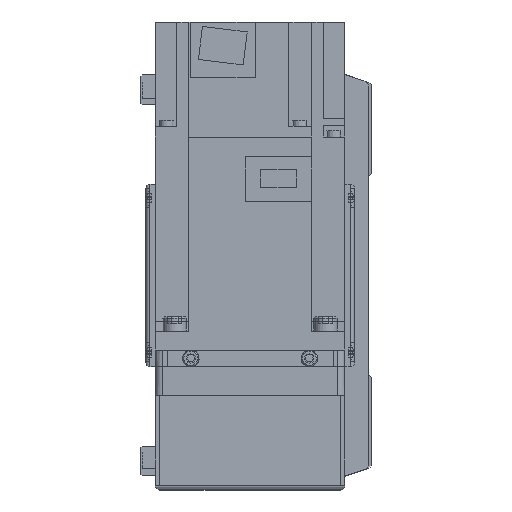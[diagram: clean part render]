
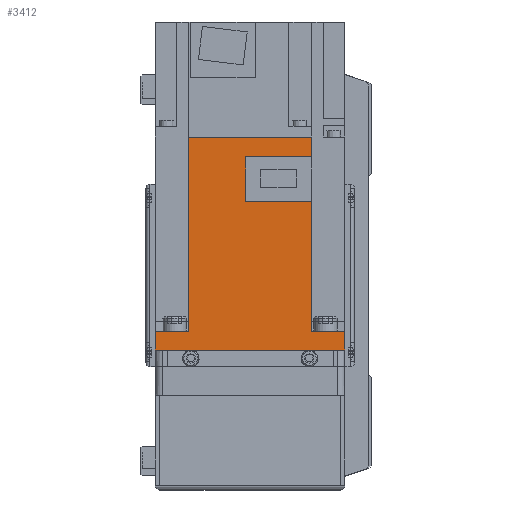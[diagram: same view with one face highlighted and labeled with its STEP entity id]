
A CAD part, left-side view. The second image highlights one B-rep face of the part: STEP entity #3412.
In plain terms, the highlighted planar face has unit normal (-1, 0, 0) as drawn and (1, 0, 0) by its records, which use the part's own axes.
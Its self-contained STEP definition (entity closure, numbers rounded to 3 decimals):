
#3412 = ADVANCED_FACE( '', ( #7199 ), #7200, .F. );
#7199 = FACE_OUTER_BOUND( '', #11065, .T. );
#7200 = PLANE( '', #11066 );
#11065 = EDGE_LOOP( '', ( #20628, #20629, #20630, #20631, #20632, #20633, #20634, #20635, #20636, #20637, #20638, #20639 ) );
#11066 = AXIS2_PLACEMENT_3D( '', #20640, #20641, #20642 );
#20628 = ORIENTED_EDGE( '', *, *, #25267, .F. );
#20629 = ORIENTED_EDGE( '', *, *, #23887, .F. );
#20630 = ORIENTED_EDGE( '', *, *, #25289, .F. );
#20631 = ORIENTED_EDGE( '', *, *, #25201, .T. );
#20632 = ORIENTED_EDGE( '', *, *, #25062, .F. );
#20633 = ORIENTED_EDGE( '', *, *, #24286, .T. );
#20634 = ORIENTED_EDGE( '', *, *, #24983, .T. );
#20635 = ORIENTED_EDGE( '', *, *, #21551, .F. );
#20636 = ORIENTED_EDGE( '', *, *, #23362, .F. );
#20637 = ORIENTED_EDGE( '', *, *, #23889, .F. );
#20638 = ORIENTED_EDGE( '', *, *, #25106, .F. );
#20639 = ORIENTED_EDGE( '', *, *, #22730, .F. );
#20640 = CARTESIAN_POINT( '', ( 40., 89.8, 40. ) );
#20641 = DIRECTION( '', ( -1., 0., 0. ) );
#20642 = DIRECTION( '', ( 0., 0., 1. ) );
#21551 = EDGE_CURVE( '', #25494, #25496, #25497, .T. );
#22730 = EDGE_CURVE( '', #27543, #27544, #27545, .T. );
#23362 = EDGE_CURVE( '', #28541, #25494, #28542, .T. );
#23887 = EDGE_CURVE( '', #29327, #29329, #29330, .T. );
#23889 = EDGE_CURVE( '', #29331, #28541, #29333, .T. );
#24286 = EDGE_CURVE( '', #29868, #29866, #29869, .T. );
#24983 = EDGE_CURVE( '', #29866, #25496, #30769, .T. );
#25062 = EDGE_CURVE( '', #29868, #30862, #30863, .T. );
#25106 = EDGE_CURVE( '', #27544, #29331, #30913, .T. );
#25201 = EDGE_CURVE( '', #31018, #30862, #31019, .T. );
#25267 = EDGE_CURVE( '', #29329, #27543, #31091, .T. );
#25289 = EDGE_CURVE( '', #31018, #29327, #31114, .T. );
#25494 = VERTEX_POINT( '', #31395 );
#25496 = VERTEX_POINT( '', #31398 );
#25497 = LINE( '', #31399, #31400 );
#27543 = VERTEX_POINT( '', #34935 );
#27544 = VERTEX_POINT( '', #34936 );
#27545 = LINE( '', #34937, #34938 );
#28541 = VERTEX_POINT( '', #36348 );
#28542 = LINE( '', #36349, #36350 );
#29327 = VERTEX_POINT( '', #37456 );
#29329 = VERTEX_POINT( '', #37459 );
#29330 = LINE( '', #37460, #37461 );
#29331 = VERTEX_POINT( '', #37462 );
#29333 = LINE( '', #37465, #37466 );
#29866 = VERTEX_POINT( '', #38347 );
#29868 = VERTEX_POINT( '', #38350 );
#29869 = LINE( '', #38351, #38352 );
#30769 = LINE( '', #39888, #39889 );
#30862 = VERTEX_POINT( '', #40014 );
#30863 = LINE( '', #40015, #40016 );
#30913 = LINE( '', #40088, #40089 );
#31018 = VERTEX_POINT( '', #40218 );
#31019 = LINE( '', #40219, #40220 );
#31091 = LINE( '', #40321, #40322 );
#31114 = LINE( '', #40350, #40351 );
#31395 = CARTESIAN_POINT( '', ( 40., 8., -40. ) );
#31398 = CARTESIAN_POINT( '', ( 40., 0., -40. ) );
#31399 = CARTESIAN_POINT( '', ( 40., 89.8, -40. ) );
#31400 = VECTOR( '', #40549, 1000. );
#34935 = CARTESIAN_POINT( '', ( 40., 81.4, 1.8 ) );
#34936 = CARTESIAN_POINT( '', ( 40., 62.8, 1.8 ) );
#34937 = CARTESIAN_POINT( '', ( 40., 81.4, 1.8 ) );
#34938 = VECTOR( '', #42124, 1000. );
#36348 = CARTESIAN_POINT( '', ( 40., 8., -25.95 ) );
#36349 = CARTESIAN_POINT( '', ( 40., 8., 40. ) );
#36350 = VECTOR( '', #42923, 1000. );
#37456 = CARTESIAN_POINT( '', ( 40., 89.8, -25.95 ) );
#37459 = CARTESIAN_POINT( '', ( 40., 81.4, -25.95 ) );
#37460 = CARTESIAN_POINT( '', ( 40., 158., -25.95 ) );
#37461 = VECTOR( '', #43602, 1000. );
#37462 = CARTESIAN_POINT( '', ( 40., 62.8, -25.95 ) );
#37465 = CARTESIAN_POINT( '', ( 40., 158., -25.95 ) );
#37466 = VECTOR( '', #43604, 1000. );
#38347 = CARTESIAN_POINT( '', ( 40., 0., 40. ) );
#38350 = CARTESIAN_POINT( '', ( 40., 8., 40. ) );
#38351 = CARTESIAN_POINT( '', ( 40., 89.8, 40. ) );
#38352 = VECTOR( '', #44017, 1000. );
#39888 = CARTESIAN_POINT( '', ( 40., 0., 40. ) );
#39889 = VECTOR( '', #44715, 1000. );
#40014 = CARTESIAN_POINT( '', ( 40., 8., 25.95 ) );
#40015 = CARTESIAN_POINT( '', ( 40., 8., 40. ) );
#40016 = VECTOR( '', #44773, 1000. );
#40088 = CARTESIAN_POINT( '', ( 40., 62.8, 1.8 ) );
#40089 = VECTOR( '', #44808, 1000. );
#40218 = CARTESIAN_POINT( '', ( 40., 89.8, 25.95 ) );
#40219 = CARTESIAN_POINT( '', ( 40., 158., 25.95 ) );
#40220 = VECTOR( '', #44887, 1000. );
#40321 = CARTESIAN_POINT( '', ( 40., 81.4, -26. ) );
#40322 = VECTOR( '', #44921, 1000. );
#40350 = CARTESIAN_POINT( '', ( 40., 89.8, 40. ) );
#40351 = VECTOR( '', #44930, 1000. );
#40549 = DIRECTION( '', ( 0., -1., 0. ) );
#42124 = DIRECTION( '', ( 0., -1., 0. ) );
#42923 = DIRECTION( '', ( 0., 0., -1. ) );
#43602 = DIRECTION( '', ( 0., -1., 0. ) );
#43604 = DIRECTION( '', ( 0., -1., 0. ) );
#44017 = DIRECTION( '', ( 0., -1., 0. ) );
#44715 = DIRECTION( '', ( 0., 0., -1. ) );
#44773 = DIRECTION( '', ( 0., 0., -1. ) );
#44808 = DIRECTION( '', ( 0., 0., -1. ) );
#44887 = DIRECTION( '', ( 0., -1., 0. ) );
#44921 = DIRECTION( '', ( 0., 0., 1. ) );
#44930 = DIRECTION( '', ( 0., 0., -1. ) );
